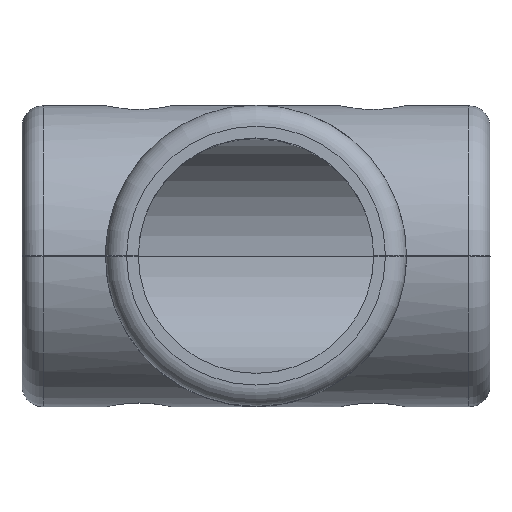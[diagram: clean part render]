
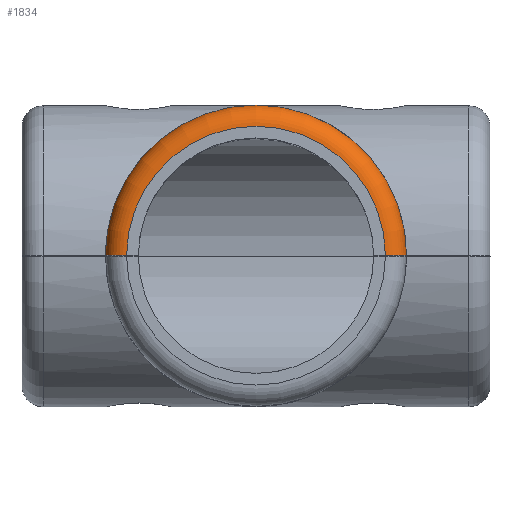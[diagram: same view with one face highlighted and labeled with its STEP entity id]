
A CAD part, top view. The second image highlights one B-rep face of the part: STEP entity #1834.
In plain terms, the highlighted toroidal (fillet/blend) face has major radius 27.65 mm and minor radius 4.5 mm.
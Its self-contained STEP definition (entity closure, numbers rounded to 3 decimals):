
#223 = CIRCLE ( 'NONE', #5422, 27.65 ) ;
#274 = CARTESIAN_POINT ( 'NONE',  ( -31.229, 0.1, 41.243 ) ) ;
#295 = CARTESIAN_POINT ( 'NONE',  ( 0., 0., 43. ) ) ;
#411 = CARTESIAN_POINT ( 'NONE',  ( 29.1, 0.1, 42.77 ) ) ;
#445 = CARTESIAN_POINT ( 'NONE',  ( 32.005, 0.1, 39.669 ) ) ;
#762 = DIRECTION ( 'NONE',  ( 0., 0., 1. ) ) ;
#771 = CARTESIAN_POINT ( 'NONE',  ( -30.622, 0.1, 41.891 ) ) ;
#1095 = CARTESIAN_POINT ( 'NONE',  ( 29.647, 0.1, 42.543 ) ) ;
#1246 = CARTESIAN_POINT ( 'NONE',  ( 27.65, 0.1, 43. ) ) ;
#1280 = CARTESIAN_POINT ( 'NONE',  ( -27.65, 0.1, 43. ) ) ;
#1301 = CARTESIAN_POINT ( 'NONE',  ( -29.642, 0.1, 42.546 ) ) ;
#1331 = CARTESIAN_POINT ( 'NONE',  ( -32.15, 0.1, 38.5 ) ) ;
#1346 = VERTEX_POINT ( 'NONE', #6524 ) ;
#1397 = CARTESIAN_POINT ( 'NONE',  ( -30.392, 0.1, 42.08 ) ) ;
#1546 = VERTEX_POINT ( 'NONE', #1280 ) ;
#1588 = CARTESIAN_POINT ( 'NONE',  ( 29.906, 0.1, 42.405 ) ) ;
#1610 = B_SPLINE_CURVE_WITH_KNOTS ( 'NONE', 3,
 ( #5024, #3499, #2007, #445, #2934, #4954, #3463, #2125, #5492, #2471, #5525, #1588, #1095, #411, #2501, #4502, #2649, #6165 ),
 .UNSPECIFIED., .F., .F.,
 ( 4, 2, 2, 2, 2, 2, 2, 2, 4 ),
 ( 0.016, 0.017, 0.018, 0.018, 0.019, 0.02, 0.021, 0.022, 0.023 ),
 .UNSPECIFIED. ) ;
#1794 = CARTESIAN_POINT ( 'NONE',  ( 0., 0., 38.5 ) ) ;
#1834 = ADVANCED_FACE ( 'NONE', ( #1864 ), #3832, .T. ) ;
#1840 = CARTESIAN_POINT ( 'NONE',  ( -27.65, 0.1, 43. ) ) ;
#1864 = FACE_OUTER_BOUND ( 'NONE', #4910, .T. ) ;
#2007 = CARTESIAN_POINT ( 'NONE',  ( 32.121, 0.1, 39.087 ) ) ;
#2090 = VERTEX_POINT ( 'NONE', #2407 ) ;
#2125 = CARTESIAN_POINT ( 'NONE',  ( 31.227, 0.1, 41.246 ) ) ;
#2243 = EDGE_CURVE ( 'NONE', #1546, #2090, #5693, .T. ) ;
#2399 = CARTESIAN_POINT ( 'NONE',  ( -27.945, 0.1, 43. ) ) ;
#2407 = CARTESIAN_POINT ( 'NONE',  ( -32.15, 0.1, 38.5 ) ) ;
#2471 = CARTESIAN_POINT ( 'NONE',  ( 30.625, 0.1, 41.889 ) ) ;
#2501 = CARTESIAN_POINT ( 'NONE',  ( 28.816, 0.1, 42.856 ) ) ;
#2649 = CARTESIAN_POINT ( 'NONE',  ( 27.945, 0.1, 43. ) ) ;
#2793 = DIRECTION ( 'NONE',  ( 1., 0., 0. ) ) ;
#2845 = EDGE_CURVE ( 'NONE', #1346, #3408, #1610, .T. ) ;
#2897 = CARTESIAN_POINT ( 'NONE',  ( -29.9, 0.1, 42.408 ) ) ;
#2934 = CARTESIAN_POINT ( 'NONE',  ( 31.92, 0.1, 39.95 ) ) ;
#3293 = CARTESIAN_POINT ( 'NONE',  ( -28.236, 0.1, 42.971 ) ) ;
#3389 = CARTESIAN_POINT ( 'NONE',  ( -31.694, 0.1, 40.496 ) ) ;
#3408 = VERTEX_POINT ( 'NONE', #1246 ) ;
#3428 = CARTESIAN_POINT ( 'NONE',  ( -32.15, 0.1, 38.795 ) ) ;
#3445 = DIRECTION ( 'NONE',  ( 1., 0., 0. ) ) ;
#3463 = CARTESIAN_POINT ( 'NONE',  ( 31.555, 0.1, 40.756 ) ) ;
#3499 = CARTESIAN_POINT ( 'NONE',  ( 32.15, 0.1, 38.793 ) ) ;
#3797 = CARTESIAN_POINT ( 'NONE',  ( -32.12, 0.1, 39.092 ) ) ;
#3832 = TOROIDAL_SURFACE ( 'NONE', #6365, 27.65, 4.5 ) ;
#3843 = ORIENTED_EDGE ( 'NONE', *, *, #5601, .F. ) ;
#3867 = CARTESIAN_POINT ( 'NONE',  ( -31.041, 0.1, 41.473 ) ) ;
#3898 = CARTESIAN_POINT ( 'NONE',  ( -31.555, 0.1, 40.755 ) ) ;
#4250 = AXIS2_PLACEMENT_3D ( 'NONE', #4378, #5369, #6391 ) ;
#4328 = CARTESIAN_POINT ( 'NONE',  ( -29.099, 0.1, 42.77 ) ) ;
#4378 = CARTESIAN_POINT ( 'NONE',  ( 0., 0., 38.5 ) ) ;
#4502 = CARTESIAN_POINT ( 'NONE',  ( 28.241, 0.1, 42.971 ) ) ;
#4593 = ORIENTED_EDGE ( 'NONE', *, *, #2243, .F. ) ;
#4906 = DIRECTION ( 'NONE',  ( 0., 0., 1. ) ) ;
#4910 = EDGE_LOOP ( 'NONE', ( #4593, #6250, #5511, #3843 ) ) ;
#4954 = CARTESIAN_POINT ( 'NONE',  ( 31.696, 0.1, 40.492 ) ) ;
#5024 = CARTESIAN_POINT ( 'NONE',  ( 32.15, 0.1, 38.5 ) ) ;
#5091 = CIRCLE ( 'NONE', #4250, 32.15 ) ;
#5369 = DIRECTION ( 'NONE',  ( 0., 0., -1. ) ) ;
#5422 = AXIS2_PLACEMENT_3D ( 'NONE', #295, #4906, #3445 ) ;
#5492 = CARTESIAN_POINT ( 'NONE',  ( 31.041, 0.1, 41.472 ) ) ;
#5511 = ORIENTED_EDGE ( 'NONE', *, *, #2845, .F. ) ;
#5525 = CARTESIAN_POINT ( 'NONE',  ( 30.394, 0.1, 42.079 ) ) ;
#5601 = EDGE_CURVE ( 'NONE', #2090, #1346, #5091, .T. ) ;
#5693 = B_SPLINE_CURVE_WITH_KNOTS ( 'NONE', 3,
 ( #1840, #2399, #3293, #6409, #4328, #1301, #2897, #1397, #771, #3867, #274, #3898, #3389, #5809, #5880, #3797, #3428, #1331 ),
 .UNSPECIFIED., .F., .F.,
 ( 4, 2, 2, 2, 2, 2, 2, 2, 4 ),
 ( 0.024, 0.025, 0.026, 0.027, 0.028, 0.029, 0.03, 0.031, 0.031 ),
 .UNSPECIFIED. ) ;
#5809 = CARTESIAN_POINT ( 'NONE',  ( -31.921, 0.1, 39.948 ) ) ;
#5880 = CARTESIAN_POINT ( 'NONE',  ( -32.006, 0.1, 39.667 ) ) ;
#6165 = CARTESIAN_POINT ( 'NONE',  ( 27.65, 0.1, 43. ) ) ;
#6250 = ORIENTED_EDGE ( 'NONE', *, *, #6387, .F. ) ;
#6365 = AXIS2_PLACEMENT_3D ( 'NONE', #1794, #762, #2793 ) ;
#6387 = EDGE_CURVE ( 'NONE', #3408, #1546, #223, .T. ) ;
#6391 = DIRECTION ( 'NONE',  ( 1., 0., 0. ) ) ;
#6409 = CARTESIAN_POINT ( 'NONE',  ( -28.813, 0.1, 42.857 ) ) ;
#6524 = CARTESIAN_POINT ( 'NONE',  ( 32.15, 0.1, 38.5 ) ) ;
